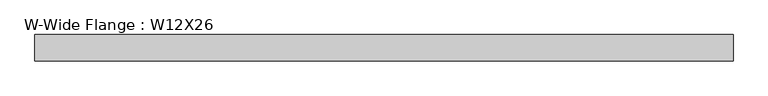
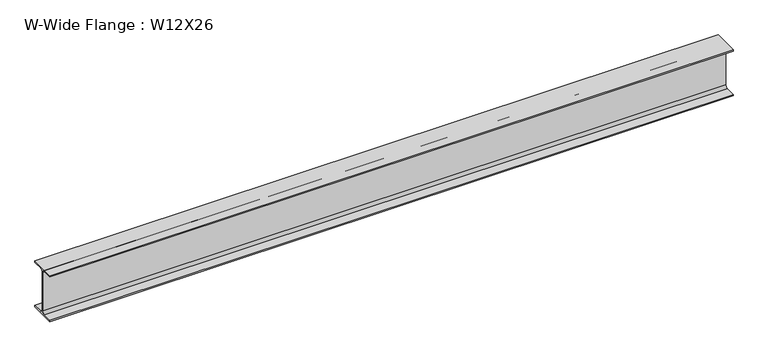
"""IFC4 building model written with IfcOpenShell, lengths in millimetres: beam geometry, W-Wide Flange : W12X26."""

from ifc_helpers import new_model, si_unit, point, frame, frame_2d, origin, place, context, project, spatial, polyline, circle_curve, trimmed, segment, composite_curve, outline, extrude, source, transform, mapped, element, save


def w_wide_flange_w12x26_e5a7b397(model_context):
    return source(origin(), model_context, "Body", "SweptSolid", [
        extrude(outline(composite_curve([segment(polyline([(82.4011719, -145.5539063), (82.4011719, -155.178125), (-82.4011719, -155.178125), (-82.4011719, -145.5539063), (-20.2902344, -145.5539063)]), True, "CONTINUOUS"), segment(trimmed(circle_curve(frame_2d((-20.2902344, -128.190625)), 17.3632812), [point((-20.2902344, -145.5539063))], [point((-2.9269531, -128.190625))], True, "CARTESIAN"), True, "CONTINUOUS"), segment(polyline([(-2.9269531, -128.190625), (-2.9269531, 128.190625)]), True, "CONTINUOUS"), segment(trimmed(circle_curve(frame_2d((-20.2902344, 128.190625)), 17.3632812), [point((-2.9269531, 128.190625))], [point((-20.2902344, 145.5539062))], True, "CARTESIAN"), True, "CONTINUOUS"), segment(polyline([(-20.2902344, 145.5539062), (-82.4011719, 145.5539062), (-82.4011719, 155.178125), (82.4011719, 155.178125), (82.4011719, 145.5539062), (20.2902344, 145.5539062)]), True, "CONTINUOUS"), segment(trimmed(circle_curve(frame_2d((20.2902344, 128.190625)), 17.3632812), [point((20.2902344, 145.5539062))], [point((2.9269531, 128.190625))], True, "CARTESIAN"), True, "CONTINUOUS"), segment(polyline([(2.9269531, 128.190625), (2.9269531, -128.190625)]), True, "CONTINUOUS"), segment(trimmed(circle_curve(frame_2d((20.2902344, -128.190625)), 17.3632812), [point((2.9269531, -128.190625))], [point((20.2902344, -145.5539063))], True, "CARTESIAN"), True, "CONTINUOUS"), segment(polyline([(20.2902344, -145.5539063), (82.4011719, -145.5539063)]), True, "CONTINUOUS")], self_intersect=False)), frame((-2172.1960937, 0.0, 0.0), z_axis=(1.0, 0.0, 0.0), x_axis=(0.0, 1.0, 0.0)), (0.0, 0.0, 1.0), 4344.3921875),
    ])


if __name__ == "__main__":
    model = new_model("IFC4")
    model_context = context("Model", 3, world=origin())
    ifc_project = project(units=[si_unit("LENGTHUNIT", "METRE", prefix="MILLI")], contexts=[model_context])
    site = spatial("IfcSite", under=ifc_project)
    building = spatial("IfcBuilding", under=site)
    placement = place(None, origin())
    w_wide_flange_w12x26_shape = w_wide_flange_w12x26_e5a7b397(model_context)
    element("IfcBeam", 1, ObjectType="W-Wide Flange : W12X26", at=placement, inside=building, context=model_context, shape_type="MappedRepresentation", body=[
        mapped(w_wide_flange_w12x26_shape, transform((0.0, 0.0, 0.0), x_axis=(1.0, 0.0, 0.0), y_axis=(0.0, 1.0, 0.0), z_axis=(0.0, 0.0, 1.0))),
    ])
    save(model, "model.ifc")
